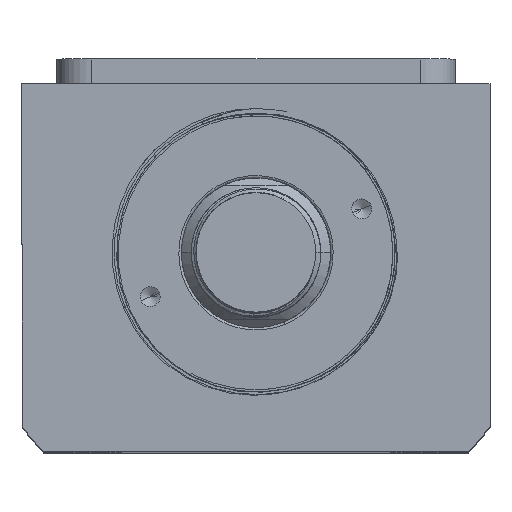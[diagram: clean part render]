
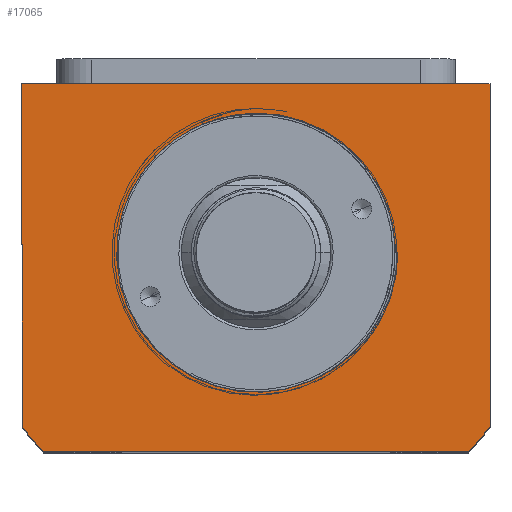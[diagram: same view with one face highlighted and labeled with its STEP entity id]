
A CAD part, top view. The second image highlights one B-rep face of the part: STEP entity #17065.
In plain terms, the highlighted planar face has unit normal (0, 0, 1).
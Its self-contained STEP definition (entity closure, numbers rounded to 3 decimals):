
#215 = ORIENTED_EDGE ( 'NONE', *, *, #2658, .T. ) ;
#279 = LINE ( 'NONE', #10118, #15814 ) ;
#486 = VERTEX_POINT ( 'NONE', #17938 ) ;
#998 = CARTESIAN_POINT ( 'NONE',  ( 16.467, -22.819, 62.5 ) ) ;
#1121 = LINE ( 'NONE', #1546, #17574 ) ;
#1157 = B_SPLINE_CURVE_WITH_KNOTS ( 'NONE', 3,
 ( #8438, #3900, #12838, #12774, #15922, #6925, #18960, #16102, #8632, #7102, #8747, #11526, #19012, #10009, #2698, #2633, #8500, #998, #5647, #7243, #15979, #16167, #5595, #17731 ),
 .UNSPECIFIED., .F., .F.,
 ( 4, 2, 2, 2, 2, 2, 2, 2, 2, 2, 2, 4 ),
 ( 0., 0.002, 0.004, 0.009, 0.013, 0.017, 0.021, 0.023, 0.026, 0.03, 0.032, 0.034 ),
 .UNSPECIFIED. ) ;
#1164 = DIRECTION ( 'NONE',  ( 1., 0., 0. ) ) ;
#1247 = ORIENTED_EDGE ( 'NONE', *, *, #6400, .T. ) ;
#1353 = EDGE_CURVE ( 'NONE', #14247, #4437, #3130, .T. ) ;
#1546 = CARTESIAN_POINT ( 'NONE',  ( 47., 34., 62.5 ) ) ;
#1547 = ORIENTED_EDGE ( 'NONE', *, *, #1353, .F. ) ;
#1746 = VERTEX_POINT ( 'NONE', #15709 ) ;
#1948 = CARTESIAN_POINT ( 'NONE',  ( 28., 0., 62.5 ) ) ;
#2345 = ORIENTED_EDGE ( 'NONE', *, *, #14157, .T. ) ;
#2411 = EDGE_LOOP ( 'NONE', ( #16817, #7553, #4108, #2345, #17649, #1247 ) ) ;
#2469 = DIRECTION ( 'NONE',  ( 0., -1., 0. ) ) ;
#2633 = CARTESIAN_POINT ( 'NONE',  ( 18.667, -21.077, 62.5 ) ) ;
#2658 = EDGE_CURVE ( 'NONE', #11820, #4437, #4305, .T. ) ;
#2664 = EDGE_LOOP ( 'NONE', ( #1547, #18422, #215 ) ) ;
#2681 = AXIS2_PLACEMENT_3D ( 'NONE', #7408, #2872, #18092 ) ;
#2698 = CARTESIAN_POINT ( 'NONE',  ( 19.714, -20.129, 62.5 ) ) ;
#2870 = CARTESIAN_POINT ( 'NONE',  ( 0., 0., 62.5 ) ) ;
#2872 = DIRECTION ( 'NONE',  ( 0., 0., -1. ) ) ;
#3130 = LINE ( 'NONE', #12850, #17233 ) ;
#3438 = CARTESIAN_POINT ( 'NONE',  ( -47., 34., 62.5 ) ) ;
#3478 = CARTESIAN_POINT ( 'NONE',  ( -42.688, -40., 62.5 ) ) ;
#3845 = DIRECTION ( 'NONE',  ( -1., 0., 0. ) ) ;
#3900 = CARTESIAN_POINT ( 'NONE',  ( 28.485, -0.71, 62.5 ) ) ;
#4108 = ORIENTED_EDGE ( 'NONE', *, *, #6462, .T. ) ;
#4267 = CARTESIAN_POINT ( 'NONE',  ( 0., 0., 62.5 ) ) ;
#4305 = CIRCLE ( 'NONE', #2681, 28. ) ;
#4315 = FACE_OUTER_BOUND ( 'NONE', #2411, .T. ) ;
#4397 = DIRECTION ( 'NONE',  ( 0., 1., 0. ) ) ;
#4437 = VERTEX_POINT ( 'NONE', #1948 ) ;
#5595 = CARTESIAN_POINT ( 'NONE',  ( 10.89, -25.816, 62.5 ) ) ;
#5647 = CARTESIAN_POINT ( 'NONE',  ( 15.3, -23.593, 62.5 ) ) ;
#5816 = DIRECTION ( 'NONE',  ( 1., 0., 0. ) ) ;
#6051 = CARTESIAN_POINT ( 'NONE',  ( 47., 34., 62.5 ) ) ;
#6079 = VERTEX_POINT ( 'NONE', #3438 ) ;
#6259 = EDGE_CURVE ( 'NONE', #14247, #11820, #1157, .T. ) ;
#6400 = EDGE_CURVE ( 'NONE', #486, #12021, #1121, .T. ) ;
#6462 = EDGE_CURVE ( 'NONE', #1746, #6748, #18275, .T. ) ;
#6486 = VERTEX_POINT ( 'NONE', #7431 ) ;
#6748 = VERTEX_POINT ( 'NONE', #3478 ) ;
#6814 = EDGE_CURVE ( 'NONE', #6079, #1746, #15948, .T. ) ;
#6925 = CARTESIAN_POINT ( 'NONE',  ( 27.887, -5.628, 62.5 ) ) ;
#7102 = CARTESIAN_POINT ( 'NONE',  ( 24.898, -13.504, 62.5 ) ) ;
#7243 = CARTESIAN_POINT ( 'NONE',  ( 13.459, -24.624, 62.5 ) ) ;
#7248 = VECTOR ( 'NONE', #2469, 1000. ) ;
#7408 = CARTESIAN_POINT ( 'NONE',  ( 0., 0., 62.5 ) ) ;
#7431 = CARTESIAN_POINT ( 'NONE',  ( 42.688, -40., 62.5 ) ) ;
#7553 = ORIENTED_EDGE ( 'NONE', *, *, #6814, .T. ) ;
#8102 = EDGE_CURVE ( 'NONE', #12021, #6079, #15951, .T. ) ;
#8252 = AXIS2_PLACEMENT_3D ( 'NONE', #2870, #14956, #5816 ) ;
#8438 = CARTESIAN_POINT ( 'NONE',  ( 28.495, 0., 62.5 ) ) ;
#8500 = CARTESIAN_POINT ( 'NONE',  ( 18.129, -21.529, 62.5 ) ) ;
#8632 = CARTESIAN_POINT ( 'NONE',  ( 26.163, -10.961, 62.5 ) ) ;
#8747 = CARTESIAN_POINT ( 'NONE',  ( 24.178, -14.712, 62.5 ) ) ;
#8932 = EDGE_CURVE ( 'NONE', #6486, #486, #17895, .T. ) ;
#9070 = DIRECTION ( 'NONE',  ( 1., 0., 0. ) ) ;
#9599 = CARTESIAN_POINT ( 'NONE',  ( 10.232, -26.064, 62.5 ) ) ;
#9648 = DIRECTION ( 'NONE',  ( -1., 0., 0. ) ) ;
#9907 = CARTESIAN_POINT ( 'NONE',  ( -47., -34.832, 62.5 ) ) ;
#10009 = CARTESIAN_POINT ( 'NONE',  ( 20.224, -19.631, 62.5 ) ) ;
#10118 = CARTESIAN_POINT ( 'NONE',  ( 42.688, -40., 62.5 ) ) ;
#10307 = CARTESIAN_POINT ( 'NONE',  ( 28.495, 0., 62.5 ) ) ;
#10904 = DIRECTION ( 'NONE',  ( 0., 0., 1. ) ) ;
#11116 = PLANE ( 'NONE',  #14153 ) ;
#11526 = CARTESIAN_POINT ( 'NONE',  ( 22.571, -17.007, 62.5 ) ) ;
#11820 = VERTEX_POINT ( 'NONE', #9599 ) ;
#11902 = DIRECTION ( 'NONE',  ( 0., 0., 1. ) ) ;
#12021 = VERTEX_POINT ( 'NONE', #6051 ) ;
#12569 = AXIS2_PLACEMENT_3D ( 'NONE', #4267, #11902, #17862 ) ;
#12774 = CARTESIAN_POINT ( 'NONE',  ( 28.323, -2.832, 62.5 ) ) ;
#12838 = CARTESIAN_POINT ( 'NONE',  ( 28.449, -1.419, 62.5 ) ) ;
#12850 = CARTESIAN_POINT ( 'NONE',  ( 0., 0., 62.5 ) ) ;
#14153 = AXIS2_PLACEMENT_3D ( 'NONE', #14279, #10904, #9070 ) ;
#14157 = EDGE_CURVE ( 'NONE', #6748, #6486, #279, .T. ) ;
#14247 = VERTEX_POINT ( 'NONE', #10307 ) ;
#14279 = CARTESIAN_POINT ( 'NONE',  ( 0., 0., 62.5 ) ) ;
#14956 = DIRECTION ( 'NONE',  ( 0., 0., 1. ) ) ;
#15709 = CARTESIAN_POINT ( 'NONE',  ( -47., -34.832, 62.5 ) ) ;
#15814 = VECTOR ( 'NONE', #1164, 1000. ) ;
#15922 = CARTESIAN_POINT ( 'NONE',  ( 28.233, -3.538, 62.5 ) ) ;
#15948 = LINE ( 'NONE', #9907, #7248 ) ;
#15951 = LINE ( 'NONE', #17980, #16175 ) ;
#15979 = CARTESIAN_POINT ( 'NONE',  ( 12.831, -24.945, 62.5 ) ) ;
#16102 = CARTESIAN_POINT ( 'NONE',  ( 26.694, -9.657, 62.5 ) ) ;
#16167 = CARTESIAN_POINT ( 'NONE',  ( 11.542, -25.544, 62.5 ) ) ;
#16175 = VECTOR ( 'NONE', #9648, 1000. ) ;
#16817 = ORIENTED_EDGE ( 'NONE', *, *, #8102, .T. ) ;
#17065 = ADVANCED_FACE ( 'NONE', ( #17712, #4315 ), #11116, .T. ) ;
#17233 = VECTOR ( 'NONE', #3845, 1000. ) ;
#17574 = VECTOR ( 'NONE', #4397, 1000. ) ;
#17649 = ORIENTED_EDGE ( 'NONE', *, *, #8932, .T. ) ;
#17712 = FACE_BOUND ( 'NONE', #2664, .T. ) ;
#17731 = CARTESIAN_POINT ( 'NONE',  ( 10.232, -26.064, 62.5 ) ) ;
#17862 = DIRECTION ( 'NONE',  ( 1., 0., 0. ) ) ;
#17895 = CIRCLE ( 'NONE', #8252, 58.5 ) ;
#17938 = CARTESIAN_POINT ( 'NONE',  ( 47., -34.832, 62.5 ) ) ;
#17980 = CARTESIAN_POINT ( 'NONE',  ( -47., 34., 62.5 ) ) ;
#18092 = DIRECTION ( 'NONE',  ( 1., 0., 0. ) ) ;
#18275 = CIRCLE ( 'NONE', #12569, 58.5 ) ;
#18422 = ORIENTED_EDGE ( 'NONE', *, *, #6259, .T. ) ;
#18960 = CARTESIAN_POINT ( 'NONE',  ( 27.555, -6.99, 62.5 ) ) ;
#19012 = CARTESIAN_POINT ( 'NONE',  ( 21.684, -18.094, 62.5 ) ) ;
